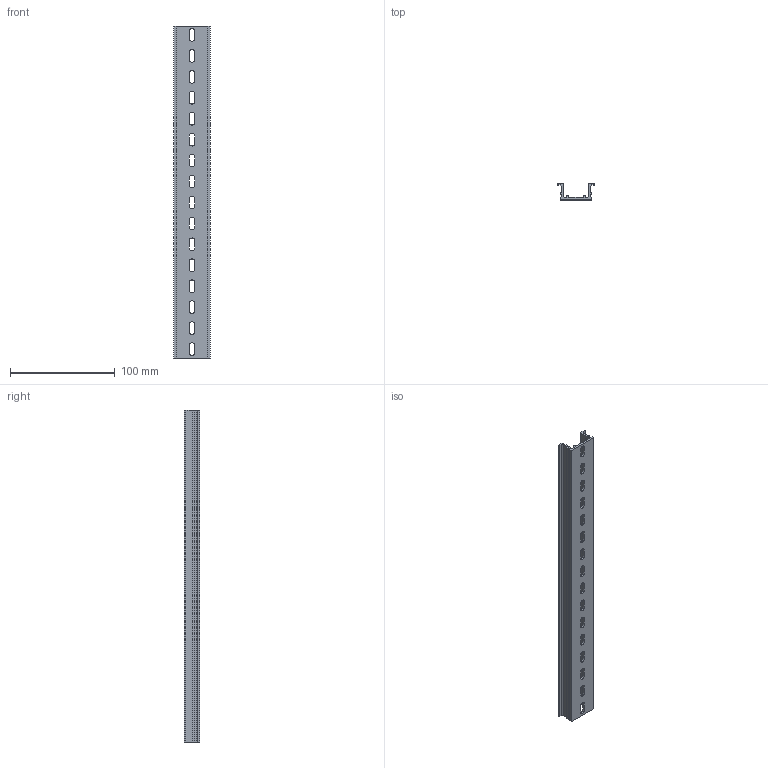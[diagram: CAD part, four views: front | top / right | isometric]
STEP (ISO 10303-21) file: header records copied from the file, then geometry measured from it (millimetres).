
FILE_DESCRIPTION(/* description */ (''),/* implementation_level */ '2;1');
FILE_NAME(/* name */ '22649-(TKB KD-16)HP 3D.stp',/* time_stamp */ '2024-12-05T13:43:26+09:00',/* author */ ('usercadg104'),/* organization */ (''),/* preprocessor_version */ 'ST-DEVELOPER v19.2',/* originating_system */ 'Autodesk Inventor 2023',/* authorisation */ '');
FILE_SCHEMA (('CONFIG_CONTROL_DESIGN'));
Length unit declared in the file: millimetre
Products named in the file (1): TKB KD-3(林)
Bounding box: 35 x 15 x 317 mm (x, y, z)
Volume: 37078.2 mm3; surface area: 42969.1 mm2
Topology: 1 solids, 1 shells, 104 faces, 306 edges, 204 vertices
Faces by surface type: plane 68, cylinder 36
Entity records: 3569 total; most frequent: CARTESIAN_POINT 615, ORIENTED_EDGE 612, DIRECTION 588, EDGE_CURVE 306, LINE 234, VECTOR 234, VERTEX_POINT 204, AXIS2_PLACEMENT_3D 177
